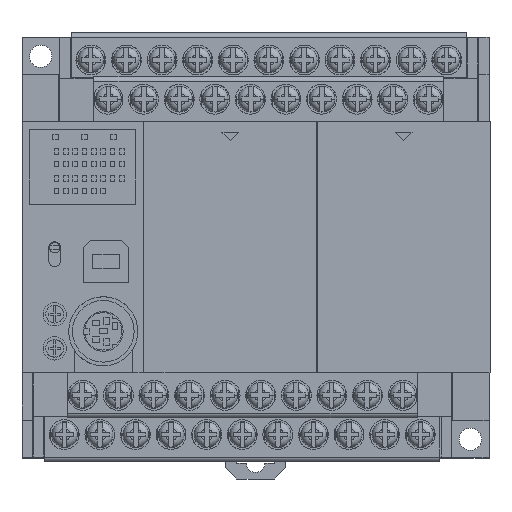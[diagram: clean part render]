
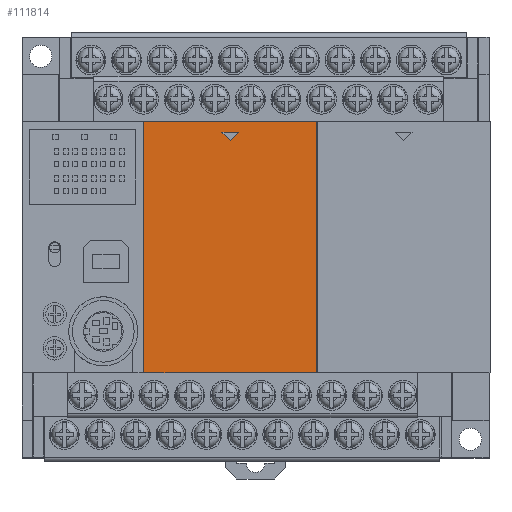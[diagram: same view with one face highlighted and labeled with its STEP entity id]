
A CAD part, top view. The second image highlights one B-rep face of the part: STEP entity #111814.
In plain terms, the highlighted planar face has unit normal (0, 0, 1).
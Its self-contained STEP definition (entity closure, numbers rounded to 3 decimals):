
#474 = DIRECTION ( 'NONE',  ( 1., 0., 0. ) ) ;
#475 = VECTOR ( 'NONE', #474, 1000. ) ;
#476 = CARTESIAN_POINT ( 'NONE',  ( -23.9, -26.9, 79. ) ) ;
#477 = LINE ( 'NONE', #476, #475 ) ;
#482 = CARTESIAN_POINT ( 'NONE',  ( 13.1, -26.9, 79. ) ) ;
#4289 = DIRECTION ( 'NONE',  ( 0., 1., 0. ) ) ;
#4290 = VECTOR ( 'NONE', #4289, 1000. ) ;
#4292 = CARTESIAN_POINT ( 'NONE',  ( 13.1, 26.9, 79. ) ) ;
#4303 = LINE ( 'NONE', #4292, #4290 ) ;
#4806 = CARTESIAN_POINT ( 'NONE',  ( 13.1, 26.9, 79. ) ) ;
#5001 = CARTESIAN_POINT ( 'NONE',  ( -7.2, 24.6, 79. ) ) ;
#5003 = DIRECTION ( 'NONE',  ( 0.707, -0.707, 0. ) ) ;
#5005 = VECTOR ( 'NONE', #5003, 1000. ) ;
#5007 = CARTESIAN_POINT ( 'NONE',  ( -5.4, 22.8, 79. ) ) ;
#5017 = LINE ( 'NONE', #5007, #5005 ) ;
#5165 = DIRECTION ( 'NONE',  ( -1., 0., 0. ) ) ;
#5167 = VECTOR ( 'NONE', #5165, 1000. ) ;
#5169 = CARTESIAN_POINT ( 'NONE',  ( -23.9, 26.9, 79. ) ) ;
#5180 = LINE ( 'NONE', #5169, #5167 ) ;
#5233 = LINE ( 'NONE', #5358, #5356 ) ;
#5355 = DIRECTION ( 'NONE',  ( -1., 0., 0. ) ) ;
#5356 = VECTOR ( 'NONE', #5355, 1000. ) ;
#5358 = CARTESIAN_POINT ( 'NONE',  ( -7.2, 24.6, 79. ) ) ;
#5406 = FACE_OUTER_BOUND ( 'NONE', #111789, .T. ) ;
#5408 = FACE_BOUND ( 'NONE', #111819, .T. ) ;
#5433 = DIRECTION ( 'NONE',  ( 0.707, 0.707, 0. ) ) ;
#5435 = VECTOR ( 'NONE', #5433, 1000. ) ;
#5437 = CARTESIAN_POINT ( 'NONE',  ( -3.6, 24.6, 79. ) ) ;
#5438 = LINE ( 'NONE', #5437, #5435 ) ;
#5495 = DIRECTION ( 'NONE',  ( 1., 0., 0. ) ) ;
#5497 = DIRECTION ( 'NONE',  ( 0., 0., 1. ) ) ;
#5499 = CARTESIAN_POINT ( 'NONE',  ( -23.9, -26.9, 79. ) ) ;
#5500 = AXIS2_PLACEMENT_3D ( 'NONE', #5499, #5497, #5495 ) ;
#5507 = PLANE ( 'NONE',  #5500 ) ;
#5707 = CARTESIAN_POINT ( 'NONE',  ( -3.6, 24.6, 79. ) ) ;
#5711 = CARTESIAN_POINT ( 'NONE',  ( -5.4, 22.8, 79. ) ) ;
#23308 = CARTESIAN_POINT ( 'NONE',  ( -23.9, 26.9, 79. ) ) ;
#23309 = DIRECTION ( 'NONE',  ( 0., -1., 0. ) ) ;
#23310 = VECTOR ( 'NONE', #23309, 1000. ) ;
#23313 = CARTESIAN_POINT ( 'NONE',  ( -23.9, 26.9, 79. ) ) ;
#23314 = LINE ( 'NONE', #23313, #23310 ) ;
#23374 = CARTESIAN_POINT ( 'NONE',  ( -23.9, -26.9, 79. ) ) ;
#110557 = VERTEX_POINT ( 'NONE', #482 ) ;
#110563 = EDGE_CURVE ( 'NONE', #115984, #110557, #477, .T. ) ;
#111412 = ORIENTED_EDGE ( 'NONE', *, *, #110563, .T. ) ;
#111552 = EDGE_CURVE ( 'NONE', #110557, #111642, #4303, .T. ) ;
#111642 = VERTEX_POINT ( 'NONE', #4806 ) ;
#111687 = EDGE_CURVE ( 'NONE', #111689, #111870, #5017, .T. ) ;
#111689 = VERTEX_POINT ( 'NONE', #5001 ) ;
#111758 = EDGE_CURVE ( 'NONE', #111642, #115963, #5180, .T. ) ;
#111760 = ORIENTED_EDGE ( 'NONE', *, *, #111687, .F. ) ;
#111773 = ORIENTED_EDGE ( 'NONE', *, *, #115961, .T. ) ;
#111786 = EDGE_CURVE ( 'NONE', #111872, #111689, #5233, .T. ) ;
#111789 = EDGE_LOOP ( 'NONE', ( #111773, #111412, #112081, #111992 ) ) ;
#111799 = EDGE_CURVE ( 'NONE', #111870, #111872, #5438, .T. ) ;
#111808 = ORIENTED_EDGE ( 'NONE', *, *, #111786, .F. ) ;
#111814 = ADVANCED_FACE ( 'NONE', ( #5408, #5406 ), #5507, .T. ) ;
#111819 = EDGE_LOOP ( 'NONE', ( #111883, #111760, #111808 ) ) ;
#111870 = VERTEX_POINT ( 'NONE', #5711 ) ;
#111872 = VERTEX_POINT ( 'NONE', #5707 ) ;
#111883 = ORIENTED_EDGE ( 'NONE', *, *, #111799, .F. ) ;
#111992 = ORIENTED_EDGE ( 'NONE', *, *, #111758, .T. ) ;
#112081 = ORIENTED_EDGE ( 'NONE', *, *, #111552, .T. ) ;
#115961 = EDGE_CURVE ( 'NONE', #115963, #115984, #23314, .T. ) ;
#115963 = VERTEX_POINT ( 'NONE', #23308 ) ;
#115984 = VERTEX_POINT ( 'NONE', #23374 ) ;
